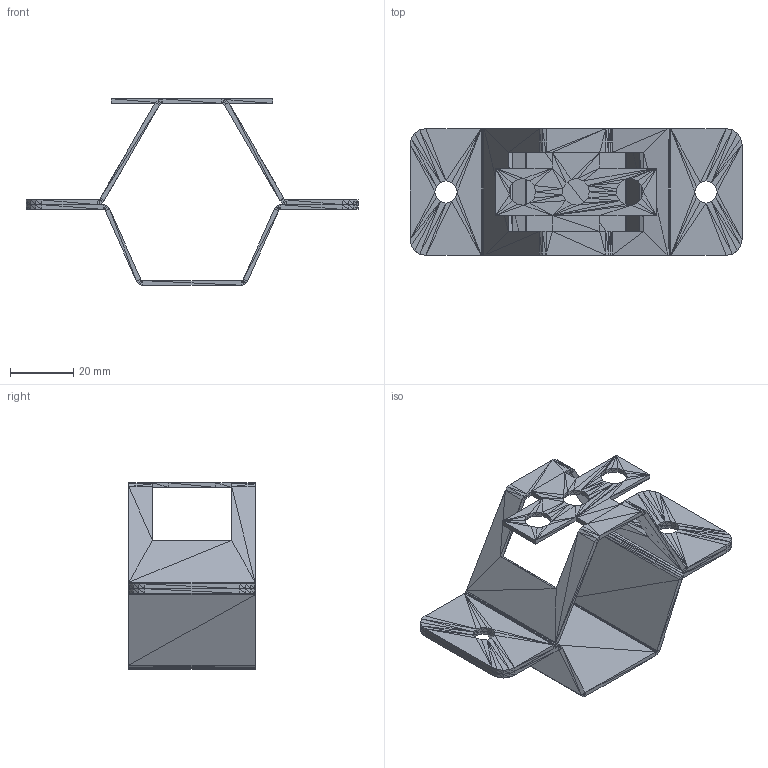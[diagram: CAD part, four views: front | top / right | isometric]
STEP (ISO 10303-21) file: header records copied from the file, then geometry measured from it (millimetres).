
FILE_DESCRIPTION((''),'2;1');
FILE_NAME('051104', '2026-04-22T11:42:13', (''), (''), 'ImageToStl.com STEP Converter','', '');
FILE_SCHEMA(('AUTOMOTIVE_DESIGN_CC2'));
Length unit declared in the file: metre
Products named in the file (1): product0
Bounding box: 105 x 40 x 59 mm (x, y, z)
Surface area: 21800.2 mm2 (no closed solid volume)
Topology: 0 solids, 908 shells, 908 faces, 2724 edges, 440 vertices
Faces by surface type: plane 908
Entity records: 20884 total; most frequent: DIRECTION 4542, ORIENTED_EDGE 2724, EDGE_CURVE 2724, LINE 2724, VECTOR 2724, AXIS2_PLACEMENT_3D 909, FACE_SURFACE 908, PLANE 908
